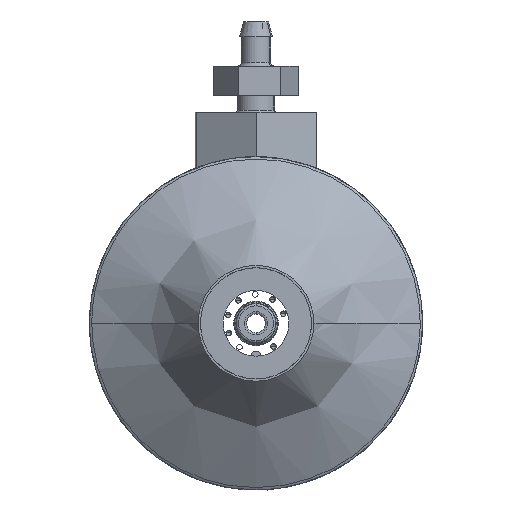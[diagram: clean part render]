
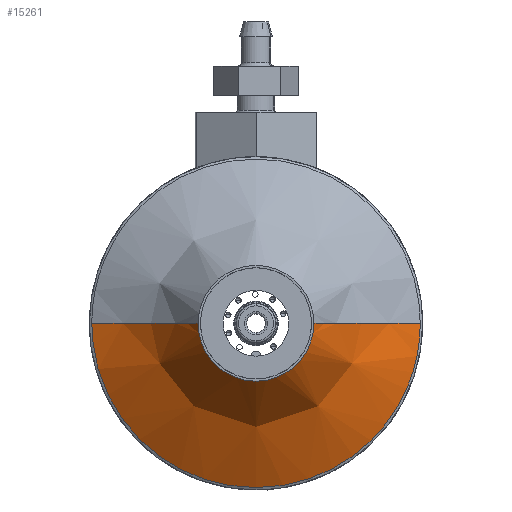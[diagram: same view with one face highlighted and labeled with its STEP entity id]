
A CAD part, front view. The second image highlights one B-rep face of the part: STEP entity #15261.
In plain terms, the highlighted free-form (B-spline) face has degree [2, 3] with [3, 4] control points.
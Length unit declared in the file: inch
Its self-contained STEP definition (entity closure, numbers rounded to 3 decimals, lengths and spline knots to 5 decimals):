
#1103 = CARTESIAN_POINT ( 'NONE',  ( 0.69848, 0.02574, -1.39696 ) ) ;
#1127 = AXIS2_PLACEMENT_3D ( 'NONE', #28518, #12782, #49261 ) ;
#1426 = CARTESIAN_POINT ( 'NONE',  ( 0.69848, 0.02574, 0. ) ) ;
#4304 = CARTESIAN_POINT ( 'NONE',  ( -0.24606, -0.35433, 0. ) ) ;
#4762 = VERTEX_POINT ( 'NONE', #50140 ) ;
#5593 = CARTESIAN_POINT ( 'NONE',  ( -0.69848, 0.02574, 0. ) ) ;
#5663 = CARTESIAN_POINT ( 'NONE',  ( -0.69848, 0.02574, -1.39696 ) ) ;
#7227 = CARTESIAN_POINT ( 'NONE',  ( -0.24606, -0.35433, 0. ) ) ;
#9092 = CARTESIAN_POINT ( 'NONE',  ( -0.69848, 0.02574, 0. ) ) ;
#10653 = CARTESIAN_POINT ( 'NONE',  ( -0.24606, -0.35433, 0. ) ) ;
#12782 = DIRECTION ( 'NONE',  ( 0., 1., 0. ) ) ;
#13317 = VERTEX_POINT ( 'NONE', #46074 ) ;
#14271 =( BOUNDED_CURVE ( )  B_SPLINE_CURVE ( 3, ( #5593, #33379, #1103, #40761 ),
 .UNSPECIFIED., .F., .T. ) 
 B_SPLINE_CURVE_WITH_KNOTS ( ( 4, 4 ),
 ( 0., 0.5 ),
 .UNSPECIFIED. ) 
 CURVE ( )  GEOMETRIC_REPRESENTATION_ITEM ( )  RATIONAL_B_SPLINE_CURVE ( ( 1., 0.333, 0.333, 1. ) ) 
 REPRESENTATION_ITEM ( '' )  );
#14644 = VERTEX_POINT ( 'NONE', #4304 ) ;
#15261 = ADVANCED_FACE ( 'NONE', ( #24642 ), #42830, .T. ) ;
#15602 = CARTESIAN_POINT ( 'NONE',  ( -0.40839, -0.08391, -0.81678 ) ) ;
#17452 = CARTESIAN_POINT ( 'NONE',  ( 0.69848, 0.02574, -1.39696 ) ) ;
#19510 = ORIENTED_EDGE ( 'NONE', *, *, #48581, .F. ) ;
#21675 = CARTESIAN_POINT ( 'NONE',  ( -0.69848, 0.02574, 0. ) ) ;
#22720 = CARTESIAN_POINT ( 'NONE',  ( -0.24606, -0.35433, -0.49213 ) ) ;
#24642 = FACE_OUTER_BOUND ( 'NONE', #27275, .T. ) ;
#27275 = EDGE_LOOP ( 'NONE', ( #36417, #35804, #28090, #19510 ) ) ;
#28090 = ORIENTED_EDGE ( 'NONE', *, *, #35079, .T. ) ;
#28518 = CARTESIAN_POINT ( 'NONE',  ( 0., -0.35433, 0. ) ) ;
#29602 = CIRCLE ( 'NONE', #1127, 0.24606 ) ;
#31325 = CARTESIAN_POINT ( 'NONE',  ( 0.69848, 0.02574, 0. ) ) ;
#31332 = CARTESIAN_POINT ( 'NONE',  ( 0.24606, -0.35433, 0. ) ) ;
#33165 = EDGE_CURVE ( 'NONE', #4762, #13317, #37751, .T. ) ;
#33379 = CARTESIAN_POINT ( 'NONE',  ( -0.69848, 0.02574, -1.39696 ) ) ;
#34739 = CARTESIAN_POINT ( 'NONE',  ( 0.40839, -0.08391, 0. ) ) ;
#35005 = CARTESIAN_POINT ( 'NONE',  ( -0.40839, -0.08391, 0. ) ) ;
#35079 = EDGE_CURVE ( 'NONE', #13317, #14644, #29602, .T. ) ;
#35804 = ORIENTED_EDGE ( 'NONE', *, *, #33165, .T. ) ;
#36417 = ORIENTED_EDGE ( 'NONE', *, *, #39178, .T. ) ;
#37751 = B_SPLINE_CURVE_WITH_KNOTS ( 'NONE', 2,
 ( #31325, #34739, #39484 ),
 .UNSPECIFIED., .F., .F.,
 ( 3, 3 ),
 ( 0.01718, 1. ),
 .UNSPECIFIED. ) ;
#38736 = CARTESIAN_POINT ( 'NONE',  ( -0.40839, -0.08391, 0. ) ) ;
#39178 = EDGE_CURVE ( 'NONE', #42424, #4762, #14271, .T. ) ;
#39484 = CARTESIAN_POINT ( 'NONE',  ( 0.24606, -0.35433, 0. ) ) ;
#40761 = CARTESIAN_POINT ( 'NONE',  ( 0.69848, 0.02574, 0. ) ) ;
#42424 = VERTEX_POINT ( 'NONE', #9092 ) ;
#42830 =( BOUNDED_SURFACE ( )  B_SPLINE_SURFACE ( 2, 3, ( 
 ( #1426, #17452, #5663, #21675 ),
 ( #43184, #47640, #15602, #35005 ),
 ( #31332, #51072, #22720, #7227 ) ),
 .UNSPECIFIED., .F., .F., .F. ) 
 B_SPLINE_SURFACE_WITH_KNOTS ( ( 3, 3 ),
 ( 4, 4 ),
 ( 0.01718, 1. ),
 ( 0., 1. ),
 .UNSPECIFIED. ) 
 GEOMETRIC_REPRESENTATION_ITEM ( )  RATIONAL_B_SPLINE_SURFACE ( (
 ( 1., 0.333, 0.333, 1.),
 ( 1., 0.333, 0.333, 1.),
 ( 1., 0.333, 0.333, 1.) ) ) 
 REPRESENTATION_ITEM ( '' )  SURFACE ( )  );
#42901 = B_SPLINE_CURVE_WITH_KNOTS ( 'NONE', 2,
 ( #50591, #38736, #10653 ),
 .UNSPECIFIED., .F., .F.,
 ( 3, 3 ),
 ( 0.01718, 1. ),
 .UNSPECIFIED. ) ;
#43184 = CARTESIAN_POINT ( 'NONE',  ( 0.40839, -0.08391, 0. ) ) ;
#46074 = CARTESIAN_POINT ( 'NONE',  ( 0.24606, -0.35433, 0. ) ) ;
#47640 = CARTESIAN_POINT ( 'NONE',  ( 0.40839, -0.08391, -0.81678 ) ) ;
#48581 = EDGE_CURVE ( 'NONE', #42424, #14644, #42901, .T. ) ;
#49261 = DIRECTION ( 'NONE',  ( -1., 0., 0. ) ) ;
#50140 = CARTESIAN_POINT ( 'NONE',  ( 0.69848, 0.02574, 0. ) ) ;
#50591 = CARTESIAN_POINT ( 'NONE',  ( -0.69848, 0.02574, 0. ) ) ;
#51072 = CARTESIAN_POINT ( 'NONE',  ( 0.24606, -0.35433, -0.49213 ) ) ;
